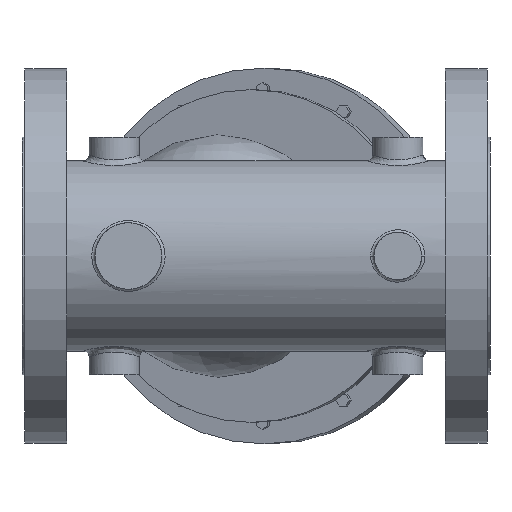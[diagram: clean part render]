
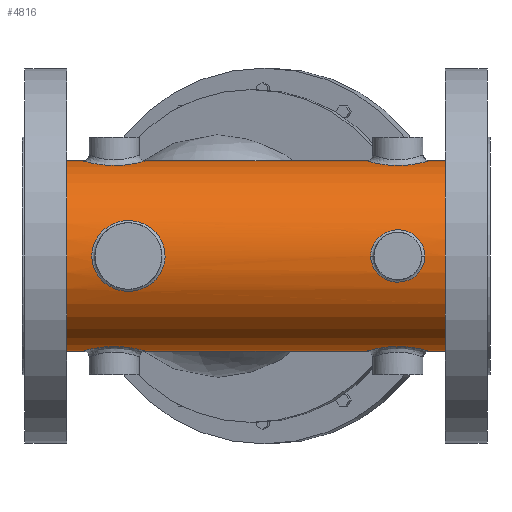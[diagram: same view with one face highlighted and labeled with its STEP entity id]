
A CAD part, front view. The second image highlights one B-rep face of the part: STEP entity #4816.
In plain terms, the highlighted cylindrical face has radius 50.8 mm (diameter 101.6 mm), a full revolution.
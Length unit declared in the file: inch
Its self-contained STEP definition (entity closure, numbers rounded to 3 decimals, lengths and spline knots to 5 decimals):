
#339=FACE_OUTER_BOUND('',#595,.T.);
#595=EDGE_LOOP('',(#3205,#3206,#3207,#3208,#3209,#3210,#3211,#3212,#3213,
#3214,#3215,#3216,#3217,#3218,#3219,#3220,#3221));
#915=CIRCLE('',#5094,2.);
#916=CIRCLE('',#5095,2.);
#917=CIRCLE('',#5096,2.);
#918=CIRCLE('',#5097,2.);
#1008=B_SPLINE_CURVE_WITH_KNOTS('',3,(#6685,#6686,#6687,#6688),
 .UNSPECIFIED.,.F.,.F.,(4,4),(-18.6025,-18.60249),
 .UNSPECIFIED.);
#1009=B_SPLINE_CURVE_WITH_KNOTS('',3,(#6690,#6691,#6692,#6693,#6694,#6695,
#6696,#6697,#6698),.UNSPECIFIED.,.F.,.F.,(4,1,1,1,1,1,4),(-10.43228,
-10.33472,-9.74416,-8.85833,-7.9725,
-7.08666,-6.20083),.UNSPECIFIED.);
#1010=B_SPLINE_CURVE_WITH_KNOTS('',3,(#6700,#6701,#6702,#6703,#6704,#6705),
 .UNSPECIFIED.,.F.,.F.,(4,1,1,4),(-12.40166,-12.10639,-11.51583,
-10.43228),.UNSPECIFIED.);
#1011=B_SPLINE_CURVE_WITH_KNOTS('',3,(#6712,#6713,#6714,#6715,#6716,#6717,
#6718),.UNSPECIFIED.,.F.,.F.,(4,1,1,1,4),(-14.37101,-13.87805,
-13.2875,-12.69694,-12.40166),.UNSPECIFIED.);
#1012=B_SPLINE_CURVE_WITH_KNOTS('',3,(#6719,#6720,#6721,#6722,#6723,#6724,
#6725,#6726),.UNSPECIFIED.,.F.,.F.,(4,1,1,1,1,4),(-18.60249,-17.71666,
-16.83083,-15.64972,-15.05916,-14.37101),
 .UNSPECIFIED.);
#1013=B_SPLINE_CURVE_WITH_KNOTS('',3,(#6727,#6728,#6729,#6730,#6731,#6732,
#6733,#6734,#6735,#6736,#6737),.UNSPECIFIED.,.F.,.F.,(4,1,1,1,1,1,1,1,4),
(-5.76715,-5.49252,-5.12635,-4.39402,
-3.66168,-3.29551,-2.56318,-2.19701,
-1.92238),.UNSPECIFIED.);
#1053=LINE('',#6681,#1573);
#1054=LINE('',#6683,#1574);
#1055=LINE('',#6707,#1575);
#1056=LINE('',#6739,#1576);
#1573=VECTOR('',#5451,2.);
#1574=VECTOR('',#5452,2.);
#1575=VECTOR('',#5453,2.);
#1576=VECTOR('',#5458,2.);
#2093=VERTEX_POINT('',#6679);
#2094=VERTEX_POINT('',#6680);
#2095=VERTEX_POINT('',#6682);
#2096=VERTEX_POINT('',#6684);
#2097=VERTEX_POINT('',#6689);
#2098=VERTEX_POINT('',#6699);
#2099=VERTEX_POINT('',#6706);
#2100=VERTEX_POINT('',#6708);
#2101=VERTEX_POINT('',#6711);
#2102=VERTEX_POINT('',#6738);
#2103=VERTEX_POINT('',#6740);
#2544=EDGE_CURVE('',#2093,#2094,#1053,.T.);
#2545=EDGE_CURVE('',#2093,#2095,#1054,.T.);
#2546=EDGE_CURVE('',#2096,#2095,#1008,.T.);
#2547=EDGE_CURVE('',#2097,#2096,#1009,.T.);
#2548=EDGE_CURVE('',#2098,#2097,#1010,.T.);
#2549=EDGE_CURVE('',#2098,#2099,#1055,.T.);
#2550=EDGE_CURVE('',#2099,#2100,#915,.T.);
#2551=EDGE_CURVE('',#2100,#2099,#916,.T.);
#2552=EDGE_CURVE('',#2101,#2098,#1011,.T.);
#2553=EDGE_CURVE('',#2095,#2101,#1012,.T.);
#2554=EDGE_CURVE('',#2094,#2093,#1013,.T.);
#2555=EDGE_CURVE('',#2102,#2094,#1056,.T.);
#2556=EDGE_CURVE('',#2103,#2102,#917,.T.);
#2557=EDGE_CURVE('',#2102,#2103,#918,.T.);
#3205=ORIENTED_EDGE('',*,*,#2544,.F.);
#3206=ORIENTED_EDGE('',*,*,#2545,.T.);
#3207=ORIENTED_EDGE('',*,*,#2546,.F.);
#3208=ORIENTED_EDGE('',*,*,#2547,.F.);
#3209=ORIENTED_EDGE('',*,*,#2548,.F.);
#3210=ORIENTED_EDGE('',*,*,#2549,.T.);
#3211=ORIENTED_EDGE('',*,*,#2550,.T.);
#3212=ORIENTED_EDGE('',*,*,#2551,.T.);
#3213=ORIENTED_EDGE('',*,*,#2549,.F.);
#3214=ORIENTED_EDGE('',*,*,#2552,.F.);
#3215=ORIENTED_EDGE('',*,*,#2553,.F.);
#3216=ORIENTED_EDGE('',*,*,#2545,.F.);
#3217=ORIENTED_EDGE('',*,*,#2554,.F.);
#3218=ORIENTED_EDGE('',*,*,#2555,.F.);
#3219=ORIENTED_EDGE('',*,*,#2556,.F.);
#3220=ORIENTED_EDGE('',*,*,#2557,.F.);
#3221=ORIENTED_EDGE('',*,*,#2555,.T.);
#4527=CYLINDRICAL_SURFACE('',#5093,2.);
#4816=ADVANCED_FACE('',(#339),#4527,.T.);
#5093=AXIS2_PLACEMENT_3D('',#6678,#5449,#5450);
#5094=AXIS2_PLACEMENT_3D('',#6709,#5454,#5455);
#5095=AXIS2_PLACEMENT_3D('',#6710,#5456,#5457);
#5096=AXIS2_PLACEMENT_3D('',#6741,#5459,#5460);
#5097=AXIS2_PLACEMENT_3D('',#6742,#5461,#5462);
#5449=DIRECTION('center_axis',(1.,0.,0.));
#5450=DIRECTION('ref_axis',(0.,1.,0.));
#5451=DIRECTION('',(1.,0.,0.));
#5452=DIRECTION('',(-1.,0.,0.));
#5453=DIRECTION('',(-1.,0.,0.));
#5454=DIRECTION('center_axis',(1.,0.,0.));
#5455=DIRECTION('ref_axis',(0.,0.,-1.));
#5456=DIRECTION('center_axis',(1.,0.,0.));
#5457=DIRECTION('ref_axis',(0.,0.,-1.));
#5458=DIRECTION('',(-1.,0.,0.));
#5459=DIRECTION('center_axis',(1.,0.,0.));
#5460=DIRECTION('ref_axis',(0.,0.,-1.));
#5461=DIRECTION('center_axis',(1.,0.,0.));
#5462=DIRECTION('ref_axis',(0.,0.,-1.));
#6678=CARTESIAN_POINT('Origin',(0.,0.,0.));
#6679=CARTESIAN_POINT('',(2.412,-2.,0.));
#6680=CARTESIAN_POINT('',(3.552,-2.,0.));
#6681=CARTESIAN_POINT('',(0.,-2.,0.));
#6682=CARTESIAN_POINT('',(-1.912,-2.,0.));
#6683=CARTESIAN_POINT('',(0.,-2.,0.));
#6684=CARTESIAN_POINT('',(-1.912,-2.,0.));
#6685=CARTESIAN_POINT('Ctrl Pts',(-1.912,-2.,0.));
#6686=CARTESIAN_POINT('Ctrl Pts',(-1.912,-2.,0.));
#6687=CARTESIAN_POINT('Ctrl Pts',(-1.912,-2.,0.));
#6688=CARTESIAN_POINT('Ctrl Pts',(-1.912,-2.,0.));
#6689=CARTESIAN_POINT('',(-3.10048,-1.9,-0.6245));
#6690=CARTESIAN_POINT('Ctrl Pts',(-3.10048,-1.90002,-0.62449));
#6691=CARTESIAN_POINT('Ctrl Pts',(-3.08991,-1.89784,-0.63112));
#6692=CARTESIAN_POINT('Ctrl Pts',(-3.01408,-1.8828,-0.67613));
#6693=CARTESIAN_POINT('Ctrl Pts',(-2.82171,-1.85426,-0.74995));
#6694=CARTESIAN_POINT('Ctrl Pts',(-2.50227,-1.85431,-0.75003));
#6695=CARTESIAN_POINT('Ctrl Pts',(-2.18497,-1.91198,-0.60026));
#6696=CARTESIAN_POINT('Ctrl Pts',(-1.96614,-1.97977,-0.33649));
#6697=CARTESIAN_POINT('Ctrl Pts',(-1.912,-2.,-0.11233));
#6698=CARTESIAN_POINT('Ctrl Pts',(-1.912,-2.,0.));
#6699=CARTESIAN_POINT('',(-3.452,-2.,0.));
#6700=CARTESIAN_POINT('Ctrl Pts',(-3.45198,-1.99998,0.00001));
#6701=CARTESIAN_POINT('Ctrl Pts',(-3.45197,-1.99997,-0.03743));
#6702=CARTESIAN_POINT('Ctrl Pts',(-3.44323,-1.99688,-0.14976));
#6703=CARTESIAN_POINT('Ctrl Pts',(-3.36587,-1.96936,-0.38997));
#6704=CARTESIAN_POINT('Ctrl Pts',(-3.21792,-1.92417,-0.55085));
#6705=CARTESIAN_POINT('Ctrl Pts',(-3.10048,-1.90002,-0.62449));
#6706=CARTESIAN_POINT('',(-3.9825,-2.,0.));
#6707=CARTESIAN_POINT('',(0.,-2.,0.));
#6708=CARTESIAN_POINT('',(-3.9825,2.,0.));
#6709=CARTESIAN_POINT('Origin',(-3.9825,0.,0.));
#6710=CARTESIAN_POINT('Origin',(-3.9825,0.,0.));
#6711=CARTESIAN_POINT('',(-3.10048,-1.9,0.6245));
#6712=CARTESIAN_POINT('Ctrl Pts',(-3.10034,-1.90012,0.62441));
#6713=CARTESIAN_POINT('Ctrl Pts',(-3.1538,-1.91107,0.591));
#6714=CARTESIAN_POINT('Ctrl Pts',(-3.26172,-1.93743,0.50378));
#6715=CARTESIAN_POINT('Ctrl Pts',(-3.38506,-1.97629,0.32961));
#6716=CARTESIAN_POINT('Ctrl Pts',(-3.44329,-1.99689,0.14976));
#6717=CARTESIAN_POINT('Ctrl Pts',(-3.45199,-1.99998,0.03745));
#6718=CARTESIAN_POINT('Ctrl Pts',(-3.45198,-1.99998,0.00001));
#6719=CARTESIAN_POINT('Ctrl Pts',(-1.912,-2.,0.));
#6720=CARTESIAN_POINT('Ctrl Pts',(-1.912,-2.,0.11233));
#6721=CARTESIAN_POINT('Ctrl Pts',(-1.96635,-1.98013,0.33621));
#6722=CARTESIAN_POINT('Ctrl Pts',(-2.20893,-1.90375,0.63011));
#6723=CARTESIAN_POINT('Ctrl Pts',(-2.54372,-1.84986,0.75926));
#6724=CARTESIAN_POINT('Ctrl Pts',(-2.87121,-1.86023,0.73505));
#6725=CARTESIAN_POINT('Ctrl Pts',(-3.0257,-1.88484,0.67106));
#6726=CARTESIAN_POINT('Ctrl Pts',(-3.10034,-1.90012,0.62441));
#6727=CARTESIAN_POINT('Ctrl Pts',(3.55208,-2.00007,-0.00009));
#6728=CARTESIAN_POINT('Ctrl Pts',(3.55204,-2.00003,0.04133));
#6729=CARTESIAN_POINT('Ctrl Pts',(3.54058,-1.99685,0.13809));
#6730=CARTESIAN_POINT('Ctrl Pts',(3.46171,-1.97693,0.33177));
#6731=CARTESIAN_POINT('Ctrl Pts',(3.24587,-1.93115,0.52625));
#6732=CARTESIAN_POINT('Ctrl Pts',(2.95046,-1.9169,0.56968));
#6733=CARTESIAN_POINT('Ctrl Pts',(2.67489,-1.94106,0.48673));
#6734=CARTESIAN_POINT('Ctrl Pts',(2.50246,-1.97652,0.33202));
#6735=CARTESIAN_POINT('Ctrl Pts',(2.42326,-1.99706,0.13797));
#6736=CARTESIAN_POINT('Ctrl Pts',(2.41213,-1.99993,0.04136));
#6737=CARTESIAN_POINT('Ctrl Pts',(2.41212,-1.99993,-0.00004));
#6738=CARTESIAN_POINT('',(3.9825,-2.,0.));
#6739=CARTESIAN_POINT('',(0.,-2.,0.));
#6740=CARTESIAN_POINT('',(3.9825,2.,0.));
#6741=CARTESIAN_POINT('Origin',(3.9825,0.,0.));
#6742=CARTESIAN_POINT('Origin',(3.9825,0.,0.));
